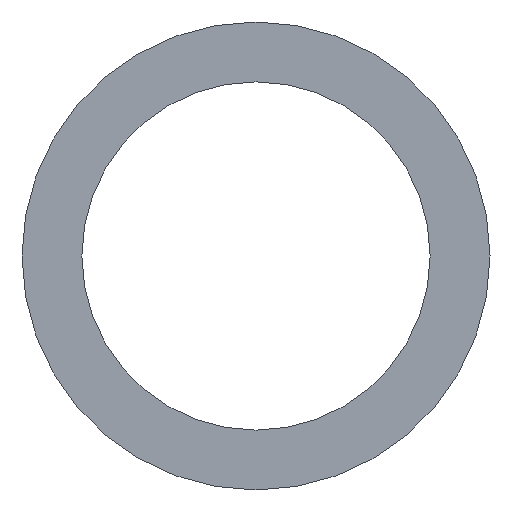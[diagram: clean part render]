
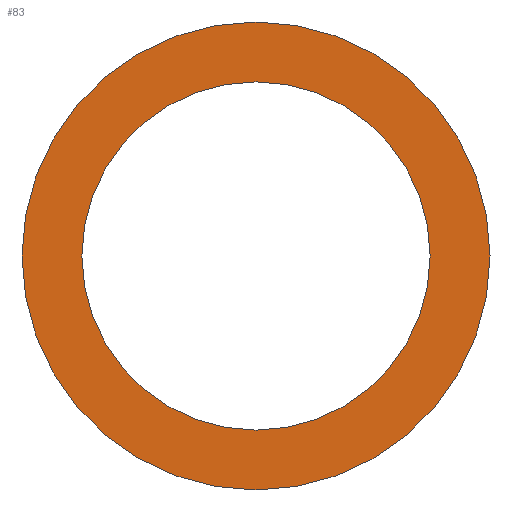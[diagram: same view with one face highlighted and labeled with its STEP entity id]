
A CAD part, front view. The second image highlights one B-rep face of the part: STEP entity #83.
In plain terms, the highlighted planar face has unit normal (0, -1, 0).
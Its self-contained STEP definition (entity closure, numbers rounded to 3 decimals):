
#10 = DIRECTION ( 'NONE',  ( 1., 0., 0. ) ) ;
#12 = EDGE_CURVE ( 'NONE', #88, #50, #169, .T. ) ;
#15 = CIRCLE ( 'NONE', #115, 25. ) ;
#29 = VERTEX_POINT ( 'NONE', #157 ) ;
#37 = EDGE_CURVE ( 'NONE', #29, #149, #206, .T. ) ;
#38 = CARTESIAN_POINT ( 'NONE',  ( 0., -3000., 0. ) ) ;
#39 = DIRECTION ( 'NONE',  ( 0., -1., 0. ) ) ;
#44 = EDGE_CURVE ( 'NONE', #50, #88, #101, .T. ) ;
#50 = VERTEX_POINT ( 'NONE', #109 ) ;
#55 = PLANE ( 'NONE',  #174 ) ;
#59 = DIRECTION ( 'NONE',  ( 1., 0., 0. ) ) ;
#70 = ORIENTED_EDGE ( 'NONE', *, *, #74, .T. ) ;
#72 = CARTESIAN_POINT ( 'NONE',  ( 25., -3000., 0. ) ) ;
#74 = EDGE_CURVE ( 'NONE', #149, #29, #15, .T. ) ;
#75 = FACE_BOUND ( 'NONE', #182, .T. ) ;
#83 = ADVANCED_FACE ( 'NONE', ( #75, #134 ), #55, .T. ) ;
#88 = VERTEX_POINT ( 'NONE', #231 ) ;
#93 = CARTESIAN_POINT ( 'NONE',  ( 0., -3000., 0. ) ) ;
#94 = CARTESIAN_POINT ( 'NONE',  ( 0., -3000., 0. ) ) ;
#101 = CIRCLE ( 'NONE', #136, 18.6 ) ;
#102 = DIRECTION ( 'NONE',  ( 0., -1., 0. ) ) ;
#106 = DIRECTION ( 'NONE',  ( 1., 0., 0. ) ) ;
#109 = CARTESIAN_POINT ( 'NONE',  ( 18.6, -3000., 0. ) ) ;
#115 = AXIS2_PLACEMENT_3D ( 'NONE', #188, #246, #131 ) ;
#121 = ORIENTED_EDGE ( 'NONE', *, *, #44, .F. ) ;
#123 = ORIENTED_EDGE ( 'NONE', *, *, #12, .F. ) ;
#126 = AXIS2_PLACEMENT_3D ( 'NONE', #202, #102, #10 ) ;
#130 = AXIS2_PLACEMENT_3D ( 'NONE', #93, #229, #210 ) ;
#131 = DIRECTION ( 'NONE',  ( 1., 0., 0. ) ) ;
#134 = FACE_OUTER_BOUND ( 'NONE', #238, .T. ) ;
#136 = AXIS2_PLACEMENT_3D ( 'NONE', #94, #39, #59 ) ;
#149 = VERTEX_POINT ( 'NONE', #72 ) ;
#155 = DIRECTION ( 'NONE',  ( 0., -1., 0. ) ) ;
#157 = CARTESIAN_POINT ( 'NONE',  ( -25., -3000., 0. ) ) ;
#169 = CIRCLE ( 'NONE', #126, 18.6 ) ;
#174 = AXIS2_PLACEMENT_3D ( 'NONE', #38, #155, #106 ) ;
#182 = EDGE_LOOP ( 'NONE', ( #123, #121 ) ) ;
#188 = CARTESIAN_POINT ( 'NONE',  ( 0., -3000., 0. ) ) ;
#202 = CARTESIAN_POINT ( 'NONE',  ( 0., -3000., 0. ) ) ;
#206 = CIRCLE ( 'NONE', #130, 25. ) ;
#210 = DIRECTION ( 'NONE',  ( 1., 0., 0. ) ) ;
#229 = DIRECTION ( 'NONE',  ( 0., -1., 0. ) ) ;
#231 = CARTESIAN_POINT ( 'NONE',  ( -18.6, -3000., 0. ) ) ;
#238 = EDGE_LOOP ( 'NONE', ( #241, #70 ) ) ;
#241 = ORIENTED_EDGE ( 'NONE', *, *, #37, .T. ) ;
#246 = DIRECTION ( 'NONE',  ( 0., -1., 0. ) ) ;
